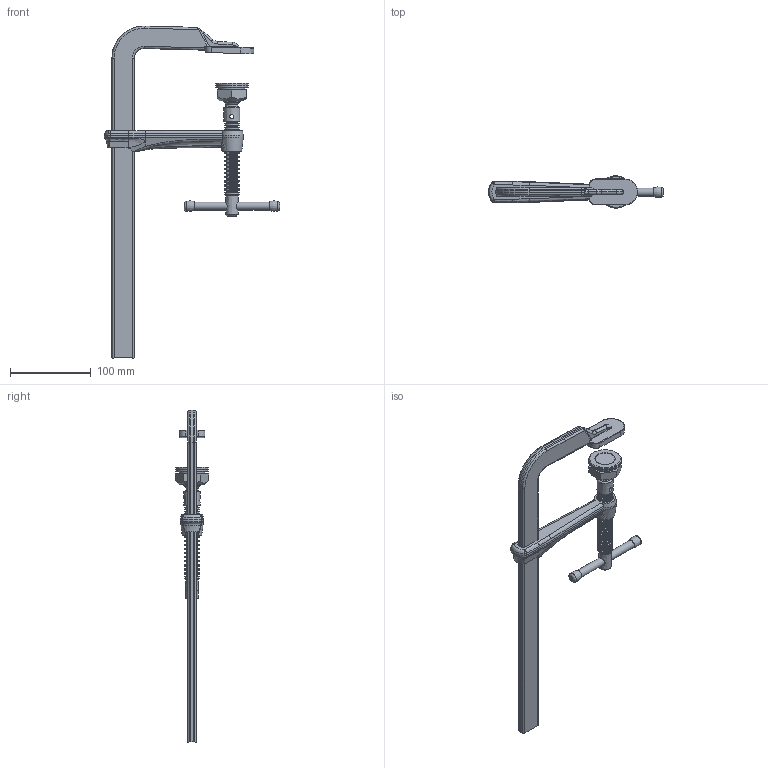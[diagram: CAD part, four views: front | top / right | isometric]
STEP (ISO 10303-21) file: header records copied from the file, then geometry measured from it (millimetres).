
FILE_DESCRIPTION( ('This file contains a STEP AP42 implementation' ,'as created by ZW3D STEP Interface translator.') ,'2;1' );
FILE_NAME( 'GSL30_kpl_28x11.stp' ,'20 630. 95935', (''), ('ZWCAD Software Co.'), 'Version 1.0', 'ZW3D to STEP translator', '' );
FILE_SCHEMA(('AUTOMOTIVE_DESIGN'));
Length unit declared in the file: millimetre
Products named in the file (10): 0; GSL30_kpl_28x11; GSL30_Festbügel_28x11; Gleitb_kpl_SL-M; Gleitbuegel_28x11_120mod; Spindel_kpl_SGL-M; Spindel_SGL-M; Druckplatte_kpl_HLZ_2.-Line; 3007071_Bolzen_HLZ; 3008298b
Assembly tree (8 placements, depth 4):
  0
  GSL30_kpl_28x11
    GSL30_Festbügel_28x11
    Gleitb_kpl_SL-M
      Gleitbuegel_28x11_120mod
      Spindel_kpl_SGL-M
        Spindel_SGL-M
      Druckplatte_kpl_HLZ_2.-Line
        3007071_Bolzen_HLZ
        3008298b
Bounding box: 216.39 x 41.57 x 409.88 mm (x, y, z)
Volume: 256519.4 mm3; surface area: 82251.5 mm2
Topology: 6 solids, 16 shells, 426 faces, 1014 edges, 678 vertices
Faces by surface type: bspline 426
Entity records: 46071 total; most frequent: CARTESIAN_POINT 39913, ORIENTED_EDGE 1872, EDGE_CURVE 945, B_SPLINE_CURVE_WITH_KNOTS 558, VERTEX_POINT 538, EDGE_LOOP 445, FACE_OUTER_BOUND 426, ADVANCED_FACE 426
